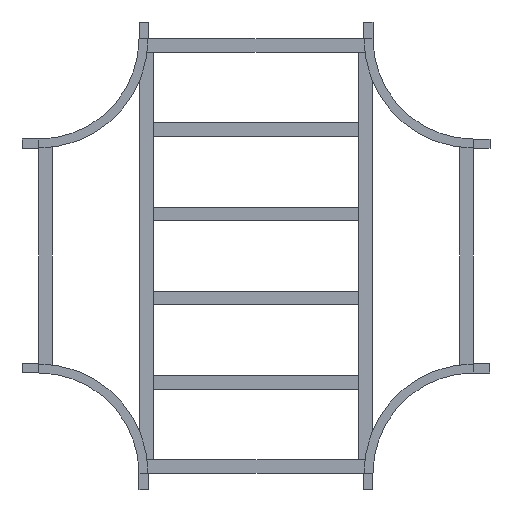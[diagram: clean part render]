
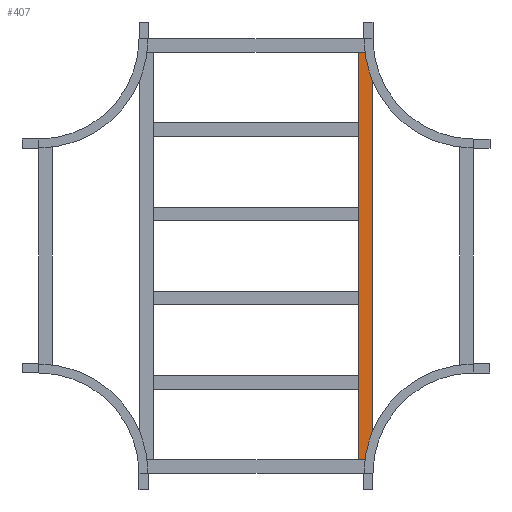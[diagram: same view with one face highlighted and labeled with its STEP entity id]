
A CAD part, front view. The second image highlights one B-rep face of the part: STEP entity #407.
In plain terms, the highlighted planar face has unit normal (0, -1, 0).
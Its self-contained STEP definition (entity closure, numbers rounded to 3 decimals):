
#2 = AXIS2_PLACEMENT_3D ( 'NONE', #894, #233, #778 ) ;
#62 = CARTESIAN_POINT ( 'NONE',  ( 609.5, 0., 20.25 ) ) ;
#64 = ORIENTED_EDGE ( 'NONE', *, *, #963, .F. ) ;
#123 = PLANE ( 'NONE',  #2 ) ;
#128 = DIRECTION ( 'NONE',  ( 0., 0., -1. ) ) ;
#147 = VECTOR ( 'NONE', #128, 1000. ) ;
#190 = VERTEX_POINT ( 'NONE', #845 ) ;
#216 = LINE ( 'NONE', #659, #1280 ) ;
#233 = DIRECTION ( 'NONE',  ( 0., 1., 0. ) ) ;
#256 = ORIENTED_EDGE ( 'NONE', *, *, #1384, .T. ) ;
#288 = VERTEX_POINT ( 'NONE', #839 ) ;
#372 = VECTOR ( 'NONE', #671, 1000. ) ;
#407 = ADVANCED_FACE ( 'NONE', ( #442 ), #123, .F. ) ;
#410 = EDGE_LOOP ( 'NONE', ( #256, #489, #64, #1020 ) ) ;
#418 = CARTESIAN_POINT ( 'NONE',  ( 609.5, 0., -20.25 ) ) ;
#442 = FACE_OUTER_BOUND ( 'NONE', #410, .T. ) ;
#446 = DIRECTION ( 'NONE',  ( -1., 0., 0. ) ) ;
#489 = ORIENTED_EDGE ( 'NONE', *, *, #903, .F. ) ;
#529 = CARTESIAN_POINT ( 'NONE',  ( 609.5, 0., 20.25 ) ) ;
#538 = LINE ( 'NONE', #1066, #147 ) ;
#659 = CARTESIAN_POINT ( 'NONE',  ( 609.5, 0., -20.25 ) ) ;
#671 = DIRECTION ( 'NONE',  ( -1., 0., 0. ) ) ;
#777 = VECTOR ( 'NONE', #830, 1000. ) ;
#778 = DIRECTION ( 'NONE',  ( 0., 0., 1. ) ) ;
#830 = DIRECTION ( 'NONE',  ( 0., 0., -1. ) ) ;
#839 = CARTESIAN_POINT ( 'NONE',  ( -609.5, 0., 20.25 ) ) ;
#845 = CARTESIAN_POINT ( 'NONE',  ( -609.5, 0., -20.25 ) ) ;
#894 = CARTESIAN_POINT ( 'NONE',  ( 609.5, 0., 20.25 ) ) ;
#903 = EDGE_CURVE ( 'NONE', #1335, #190, #216, .T. ) ;
#928 = EDGE_CURVE ( 'NONE', #1334, #288, #1307, .T. ) ;
#963 = EDGE_CURVE ( 'NONE', #1334, #1335, #1263, .T. ) ;
#994 = CARTESIAN_POINT ( 'NONE',  ( 609.5, 0., 20.25 ) ) ;
#1020 = ORIENTED_EDGE ( 'NONE', *, *, #928, .T. ) ;
#1066 = CARTESIAN_POINT ( 'NONE',  ( -609.5, 0., 20.25 ) ) ;
#1263 = LINE ( 'NONE', #62, #777 ) ;
#1280 = VECTOR ( 'NONE', #446, 1000. ) ;
#1307 = LINE ( 'NONE', #994, #372 ) ;
#1334 = VERTEX_POINT ( 'NONE', #529 ) ;
#1335 = VERTEX_POINT ( 'NONE', #418 ) ;
#1384 = EDGE_CURVE ( 'NONE', #288, #190, #538, .T. ) ;
